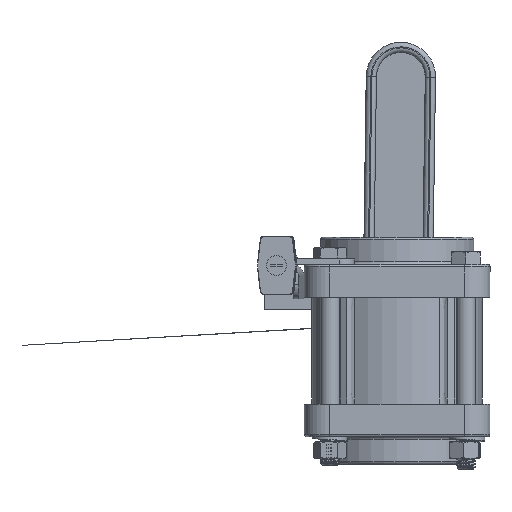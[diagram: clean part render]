
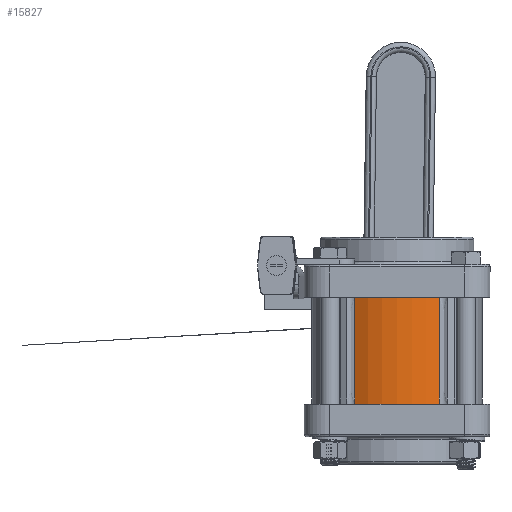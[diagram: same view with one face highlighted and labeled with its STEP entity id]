
A CAD part, front view. The second image highlights one B-rep face of the part: STEP entity #15827.
In plain terms, the highlighted cylindrical face has radius 42.164 mm (diameter 84.328 mm), a partial arc.
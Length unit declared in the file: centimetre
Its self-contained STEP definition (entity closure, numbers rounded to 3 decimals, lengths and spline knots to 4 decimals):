
#350=B_SPLINE_CURVE_WITH_KNOTS('',3,(#21320,#21321,#21322,#21323,#21324,
#21325,#21326,#21327,#21328,#21329,#21330,#21331,#21332,#21333,#21334,#21335,
#21336,#21337),.UNSPECIFIED.,.F.,.U.,(4,2,2,2,2,2,2,2,4),(0.3184,
1.0018,1.9733,2.5805,2.96,3.3395,
3.9467,4.9181,5.6016),.UNSPECIFIED.);
#351=B_SPLINE_CURVE_WITH_KNOTS('',3,(#21341,#21342,#21343,#21344,#21345,
#21346,#21347,#21348,#21349,#21350,#21351,#21352,#21353,#21354,#21355,#21356,
#21357,#21358,#21359,#21360,#21361,#21362,#21363,#21364,#21365),
 .UNSPECIFIED.,.F.,.U.,(4,3,3,3,3,3,3,3,4),(0.3175,1.0015,1.9727,
2.5797,2.9591,3.3385,3.9455,4.9167,
5.6007),.UNSPECIFIED.);
#4094=CYLINDRICAL_SURFACE('',#16710,4.2164);
#6122=VERTEX_POINT('',#21310);
#6124=VERTEX_POINT('',#21319);
#6125=VERTEX_POINT('',#21340);
#6126=VERTEX_POINT('',#21366);
#7390=CIRCLE('',#16711,4.2164);
#7391=CIRCLE('',#16712,4.2164);
#7999=EDGE_CURVE('',#6124,#6122,#350,.T.);
#8000=EDGE_CURVE('',#6124,#6125,#7390,.T.);
#8001=EDGE_CURVE('',#6126,#6125,#351,.T.);
#8002=EDGE_CURVE('',#6126,#6122,#7391,.T.);
#10137=ORIENTED_EDGE('',*,*,#7999,.F.);
#10138=ORIENTED_EDGE('',*,*,#8000,.T.);
#10139=ORIENTED_EDGE('',*,*,#8001,.F.);
#10140=ORIENTED_EDGE('',*,*,#8002,.T.);
#13945=EDGE_LOOP('',(#10137,#10138,#10139,#10140));
#14900=FACE_BOUND('',#13945,.T.);
#15827=ADVANCED_FACE('',(#14900),#4094,.T.);
#16710=AXIS2_PLACEMENT_3D('',#21338,#18155,#18156);
#16711=AXIS2_PLACEMENT_3D('',#21339,#18157,#18158);
#16712=AXIS2_PLACEMENT_3D('',#21367,#18159,#18160);
#18155=DIRECTION('',(0.,0.,1.));
#18156=DIRECTION('',(4.216,0.,0.));
#18157=DIRECTION('',(0.,0.,-1.));
#18158=DIRECTION('',(4.216,0.,0.));
#18159=DIRECTION('',(0.,0.,1.));
#18160=DIRECTION('',(4.216,0.,0.));
#21310=CARTESIAN_POINT('',(2.0941,-3.6596,0.));
#21319=CARTESIAN_POINT('',(2.0941,-3.6596,5.2832));
#21320=CARTESIAN_POINT('',(2.0941,-3.6596,5.2832));
#21321=CARTESIAN_POINT('',(2.0941,-3.6596,5.0554));
#21322=CARTESIAN_POINT('',(2.0941,-3.6596,4.8276));
#21323=CARTESIAN_POINT('',(2.0941,-3.6596,4.2759));
#21324=CARTESIAN_POINT('',(2.0941,-3.6596,3.9521));
#21325=CARTESIAN_POINT('',(2.0941,-3.6596,3.4259));
#21326=CARTESIAN_POINT('',(2.0941,-3.6596,3.2235));
#21327=CARTESIAN_POINT('',(2.0941,-3.6596,2.8946));
#21328=CARTESIAN_POINT('',(2.0941,-3.6596,2.7681));
#21329=CARTESIAN_POINT('',(2.0941,-3.6596,2.5151));
#21330=CARTESIAN_POINT('',(2.0941,-3.6596,2.3886));
#21331=CARTESIAN_POINT('',(2.0941,-3.6596,2.0597));
#21332=CARTESIAN_POINT('',(2.0941,-3.6596,1.8573));
#21333=CARTESIAN_POINT('',(2.0941,-3.6596,1.3311));
#21334=CARTESIAN_POINT('',(2.0941,-3.6596,1.0073));
#21335=CARTESIAN_POINT('',(2.0941,-3.6596,0.4556));
#21336=CARTESIAN_POINT('',(2.0941,-3.6596,0.2278));
#21337=CARTESIAN_POINT('',(2.0941,-3.6596,0.));
#21338=CARTESIAN_POINT('',(0.,0.,0.));
#21339=CARTESIAN_POINT('',(0.,0.,5.2832));
#21340=CARTESIAN_POINT('',(-2.0941,-3.6596,5.2832));
#21341=CARTESIAN_POINT('',(-2.0941,-3.6596,0.));
#21342=CARTESIAN_POINT('',(-2.0941,-3.6596,0.228));
#21343=CARTESIAN_POINT('',(-2.0941,-3.6596,0.456));
#21344=CARTESIAN_POINT('',(-2.0941,-3.6596,0.684));
#21345=CARTESIAN_POINT('',(-2.0941,-3.6596,1.0078));
#21346=CARTESIAN_POINT('',(-2.0941,-3.6596,1.3315));
#21347=CARTESIAN_POINT('',(-2.0941,-3.6596,1.6552));
#21348=CARTESIAN_POINT('',(-2.0941,-3.6596,1.8576));
#21349=CARTESIAN_POINT('',(-2.0941,-3.6596,2.0599));
#21350=CARTESIAN_POINT('',(-2.0941,-3.6596,2.2622));
#21351=CARTESIAN_POINT('',(-2.0941,-3.6596,2.3887));
#21352=CARTESIAN_POINT('',(-2.0941,-3.6596,2.5151));
#21353=CARTESIAN_POINT('',(-2.0941,-3.6596,2.6416));
#21354=CARTESIAN_POINT('',(-2.0941,-3.6596,2.7681));
#21355=CARTESIAN_POINT('',(-2.0941,-3.6596,2.8945));
#21356=CARTESIAN_POINT('',(-2.0941,-3.6596,3.021));
#21357=CARTESIAN_POINT('',(-2.0941,-3.6596,3.2233));
#21358=CARTESIAN_POINT('',(-2.0941,-3.6596,3.4256));
#21359=CARTESIAN_POINT('',(-2.0941,-3.6596,3.628));
#21360=CARTESIAN_POINT('',(-2.0941,-3.6596,3.9517));
#21361=CARTESIAN_POINT('',(-2.0941,-3.6596,4.2754));
#21362=CARTESIAN_POINT('',(-2.0941,-3.6596,4.5992));
#21363=CARTESIAN_POINT('',(-2.0941,-3.6596,4.8272));
#21364=CARTESIAN_POINT('',(-2.0941,-3.6596,5.0552));
#21365=CARTESIAN_POINT('',(-2.0941,-3.6596,5.2832));
#21366=CARTESIAN_POINT('',(-2.0941,-3.6596,0.));
#21367=CARTESIAN_POINT('',(0.,0.,0.));
